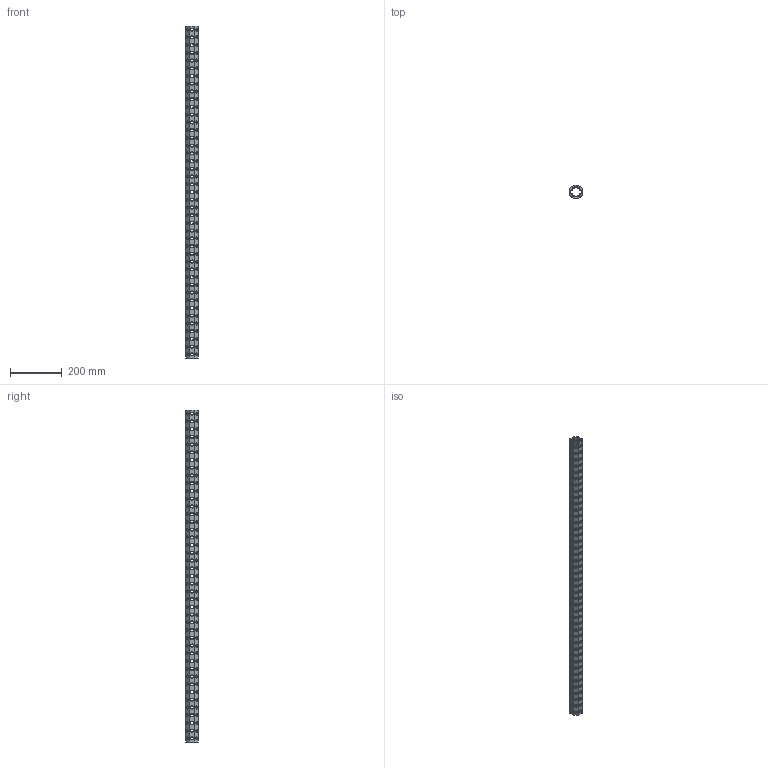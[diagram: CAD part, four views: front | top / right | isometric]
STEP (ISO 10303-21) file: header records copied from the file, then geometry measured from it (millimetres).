
FILE_DESCRIPTION(('CATIA V5 STEP Exchange'),'2;1');
FILE_NAME('U:\Room\唐宝山\EGT002\46-01-010272-01-EGT002-1288.stp','2021-08-24T01:20:45+00:00',('none'),('none'),'CATIA Version 5 Release 21 GA (IN-10)','CATIA V5 STEP AP203','none');
FILE_SCHEMA(('CONFIG_CONTROL_DESIGN'));
Products named in the file (1): 46-01-010272-01-EGT002-1288
Bounding box: 50 x 50 x 1288 mm (x, y, z)
Volume: 917597.9 mm3; surface area: 443027.3 mm2
Topology: 1 solids, 1 shells, 1804 faces, 4976 edges, 3088 vertices
Faces by surface type: cone 1032, cylinder 746, plane 26
Entity records: 77969 total; most frequent: CARTESIAN_POINT 34728, ORIENTED_EDGE 9952, DIRECTION 6790, EDGE_CURVE 4976, VERTEX_POINT 3088, AXIS2_PLACEMENT_3D 3051, EDGE_LOOP 2408, VECTOR 1936
